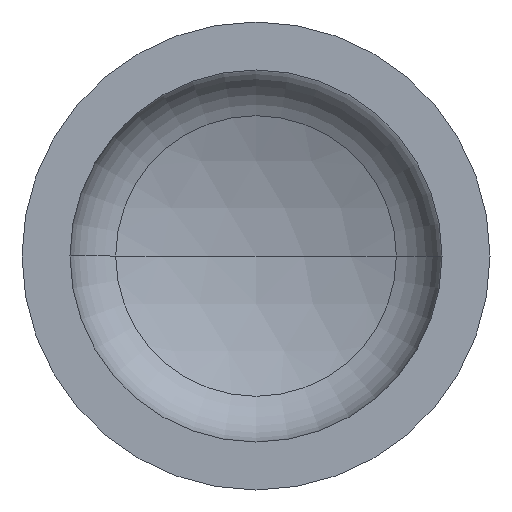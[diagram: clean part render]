
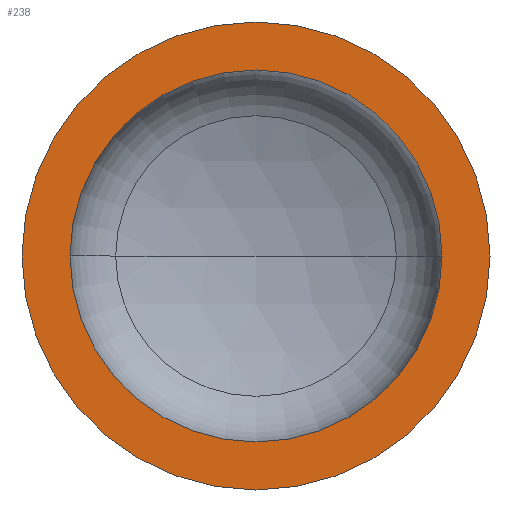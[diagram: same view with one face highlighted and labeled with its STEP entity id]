
A CAD part, front view. The second image highlights one B-rep face of the part: STEP entity #238.
In plain terms, the highlighted planar face has unit normal (0, -1, 0).
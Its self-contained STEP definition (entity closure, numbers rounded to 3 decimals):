
#6 = EDGE_LOOP ( 'NONE', ( #268, #90 ) ) ;
#7 = AXIS2_PLACEMENT_3D ( 'NONE', #311, #174, #385 ) ;
#18 = ORIENTED_EDGE ( 'NONE', *, *, #377, .F. ) ;
#31 = EDGE_LOOP ( 'NONE', ( #126, #18 ) ) ;
#39 = CARTESIAN_POINT ( 'NONE',  ( 0., 0., 0. ) ) ;
#40 = FACE_OUTER_BOUND ( 'NONE', #6, .T. ) ;
#53 = AXIS2_PLACEMENT_3D ( 'NONE', #39, #102, #97 ) ;
#57 = AXIS2_PLACEMENT_3D ( 'NONE', #256, #220, #253 ) ;
#64 = VERTEX_POINT ( 'NONE', #243 ) ;
#89 = VERTEX_POINT ( 'NONE', #291 ) ;
#90 = ORIENTED_EDGE ( 'NONE', *, *, #133, .T. ) ;
#92 = VERTEX_POINT ( 'NONE', #233 ) ;
#97 = DIRECTION ( 'NONE',  ( 1., 0., 0. ) ) ;
#102 = DIRECTION ( 'NONE',  ( 0., -1., 0. ) ) ;
#105 = AXIS2_PLACEMENT_3D ( 'NONE', #353, #352, #323 ) ;
#107 = AXIS2_PLACEMENT_3D ( 'NONE', #210, #349, #347 ) ;
#108 = VERTEX_POINT ( 'NONE', #236 ) ;
#126 = ORIENTED_EDGE ( 'NONE', *, *, #134, .F. ) ;
#133 = EDGE_CURVE ( 'NONE', #64, #89, #387, .T. ) ;
#134 = EDGE_CURVE ( 'NONE', #92, #108, #325, .T. ) ;
#174 = DIRECTION ( 'NONE',  ( 0., -1., 0. ) ) ;
#175 = CIRCLE ( 'NONE', #53, 400. ) ;
#202 = CIRCLE ( 'NONE', #7, 318. ) ;
#210 = CARTESIAN_POINT ( 'NONE',  ( 0., 0., 0. ) ) ;
#220 = DIRECTION ( 'NONE',  ( 0., 1., 0. ) ) ;
#222 = PLANE ( 'NONE',  #57 ) ;
#232 = FACE_BOUND ( 'NONE', #31, .T. ) ;
#233 = CARTESIAN_POINT ( 'NONE',  ( 318., 0., 0. ) ) ;
#236 = CARTESIAN_POINT ( 'NONE',  ( -318., 0., 0. ) ) ;
#238 = ADVANCED_FACE ( 'NONE', ( #232, #40 ), #222, .F. ) ;
#243 = CARTESIAN_POINT ( 'NONE',  ( -400., 0., 0. ) ) ;
#253 = DIRECTION ( 'NONE',  ( -1., 0., 0. ) ) ;
#256 = CARTESIAN_POINT ( 'NONE',  ( -400., 0., 0. ) ) ;
#268 = ORIENTED_EDGE ( 'NONE', *, *, #297, .T. ) ;
#291 = CARTESIAN_POINT ( 'NONE',  ( 400., 0., 0. ) ) ;
#297 = EDGE_CURVE ( 'NONE', #89, #64, #175, .T. ) ;
#311 = CARTESIAN_POINT ( 'NONE',  ( 0., 0., 0. ) ) ;
#323 = DIRECTION ( 'NONE',  ( 1., 0., 0. ) ) ;
#325 = CIRCLE ( 'NONE', #105, 318. ) ;
#347 = DIRECTION ( 'NONE',  ( 1., 0., 0. ) ) ;
#349 = DIRECTION ( 'NONE',  ( 0., -1., 0. ) ) ;
#352 = DIRECTION ( 'NONE',  ( 0., -1., 0. ) ) ;
#353 = CARTESIAN_POINT ( 'NONE',  ( 0., 0., 0. ) ) ;
#377 = EDGE_CURVE ( 'NONE', #108, #92, #202, .T. ) ;
#385 = DIRECTION ( 'NONE',  ( 1., 0., 0. ) ) ;
#387 = CIRCLE ( 'NONE', #107, 400. ) ;
